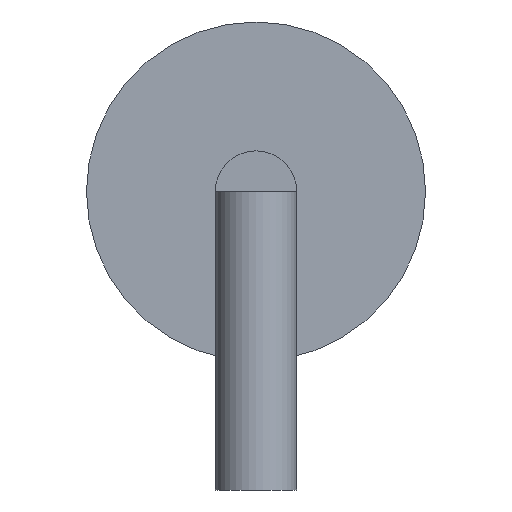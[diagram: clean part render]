
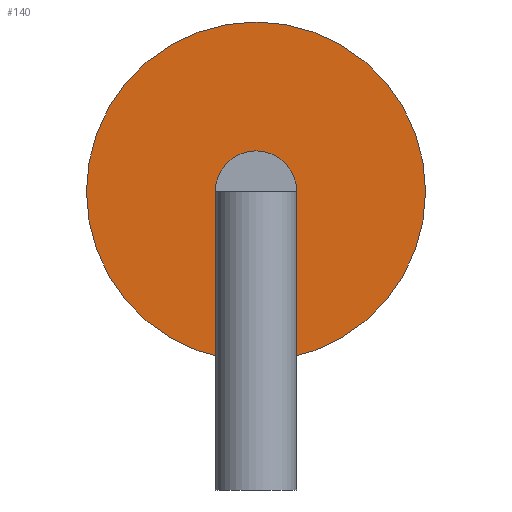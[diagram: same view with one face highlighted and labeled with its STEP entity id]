
A CAD part, left-side view. The second image highlights one B-rep face of the part: STEP entity #140.
In plain terms, the highlighted planar face has unit normal (-1, 0, 0).
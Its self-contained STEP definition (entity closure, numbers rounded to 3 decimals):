
#31 = CYLINDRICAL_SURFACE('',#32,1.25);
#32 = AXIS2_PLACEMENT_3D('',#33,#34,#35);
#33 = CARTESIAN_POINT('',(1.85,0.,2.2));
#34 = DIRECTION('',(1.,0.,0.));
#35 = DIRECTION('',(-0.,0.,1.));
#56 = VERTEX_POINT('',#57);
#57 = CARTESIAN_POINT('',(1.85,0.,3.45));
#78 = EDGE_CURVE('',#56,#56,#79,.T.);
#79 = SURFACE_CURVE('',#80,(#85,#92),.PCURVE_S1.);
#80 = CIRCLE('',#81,1.25);
#81 = AXIS2_PLACEMENT_3D('',#82,#83,#84);
#82 = CARTESIAN_POINT('',(1.85,0.,2.2));
#83 = DIRECTION('',(1.,0.,0.));
#84 = DIRECTION('',(-0.,0.,1.));
#85 = PCURVE('',#31,#86);
#86 = DEFINITIONAL_REPRESENTATION('',(#87),#91);
#87 = LINE('',#88,#89);
#88 = CARTESIAN_POINT('',(0.,0.));
#89 = VECTOR('',#90,1.);
#90 = DIRECTION('',(1.,0.));
#91 = ( GEOMETRIC_REPRESENTATION_CONTEXT(2) 
PARAMETRIC_REPRESENTATION_CONTEXT() REPRESENTATION_CONTEXT('2D SPACE',''
  ) );
#92 = PCURVE('',#93,#98);
#93 = PLANE('',#94);
#94 = AXIS2_PLACEMENT_3D('',#95,#96,#97);
#95 = CARTESIAN_POINT('',(1.85,0.,2.2));
#96 = DIRECTION('',(1.,0.,0.));
#97 = DIRECTION('',(-0.,0.,1.));
#98 = DEFINITIONAL_REPRESENTATION('',(#99),#103);
#99 = CIRCLE('',#100,1.25);
#100 = AXIS2_PLACEMENT_2D('',#101,#102);
#101 = CARTESIAN_POINT('',(0.,0.));
#102 = DIRECTION('',(1.,0.));
#103 = ( GEOMETRIC_REPRESENTATION_CONTEXT(2) 
PARAMETRIC_REPRESENTATION_CONTEXT() REPRESENTATION_CONTEXT('2D SPACE',''
  ) );
#140 = ADVANCED_FACE('',(#141,#144),#93,.F.);
#141 = FACE_BOUND('',#142,.F.);
#142 = EDGE_LOOP('',(#143));
#143 = ORIENTED_EDGE('',*,*,#78,.T.);
#144 = FACE_BOUND('',#145,.F.);
#145 = EDGE_LOOP('',(#146));
#146 = ORIENTED_EDGE('',*,*,#147,.F.);
#147 = EDGE_CURVE('',#148,#148,#150,.T.);
#148 = VERTEX_POINT('',#149);
#149 = CARTESIAN_POINT('',(1.85,0.,2.5));
#150 = SURFACE_CURVE('',#151,(#156,#163),.PCURVE_S1.);
#151 = CIRCLE('',#152,0.3);
#152 = AXIS2_PLACEMENT_3D('',#153,#154,#155);
#153 = CARTESIAN_POINT('',(1.85,0.,2.2));
#154 = DIRECTION('',(1.,0.,0.));
#155 = DIRECTION('',(-0.,0.,1.));
#156 = PCURVE('',#93,#157);
#157 = DEFINITIONAL_REPRESENTATION('',(#158),#162);
#158 = CIRCLE('',#159,0.3);
#159 = AXIS2_PLACEMENT_2D('',#160,#161);
#160 = CARTESIAN_POINT('',(0.,0.));
#161 = DIRECTION('',(1.,0.));
#162 = ( GEOMETRIC_REPRESENTATION_CONTEXT(2) 
PARAMETRIC_REPRESENTATION_CONTEXT() REPRESENTATION_CONTEXT('2D SPACE',''
  ) );
#163 = PCURVE('',#164,#169);
#164 = CYLINDRICAL_SURFACE('',#165,0.3);
#165 = AXIS2_PLACEMENT_3D('',#166,#167,#168);
#166 = CARTESIAN_POINT('',(0.,0.,2.2));
#167 = DIRECTION('',(1.,0.,0.));
#168 = DIRECTION('',(-0.,0.,1.));
#169 = DEFINITIONAL_REPRESENTATION('',(#170),#174);
#170 = LINE('',#171,#172);
#171 = CARTESIAN_POINT('',(0.,1.85));
#172 = VECTOR('',#173,1.);
#173 = DIRECTION('',(1.,0.));
#174 = ( GEOMETRIC_REPRESENTATION_CONTEXT(2) 
PARAMETRIC_REPRESENTATION_CONTEXT() REPRESENTATION_CONTEXT('2D SPACE',''
  ) );
